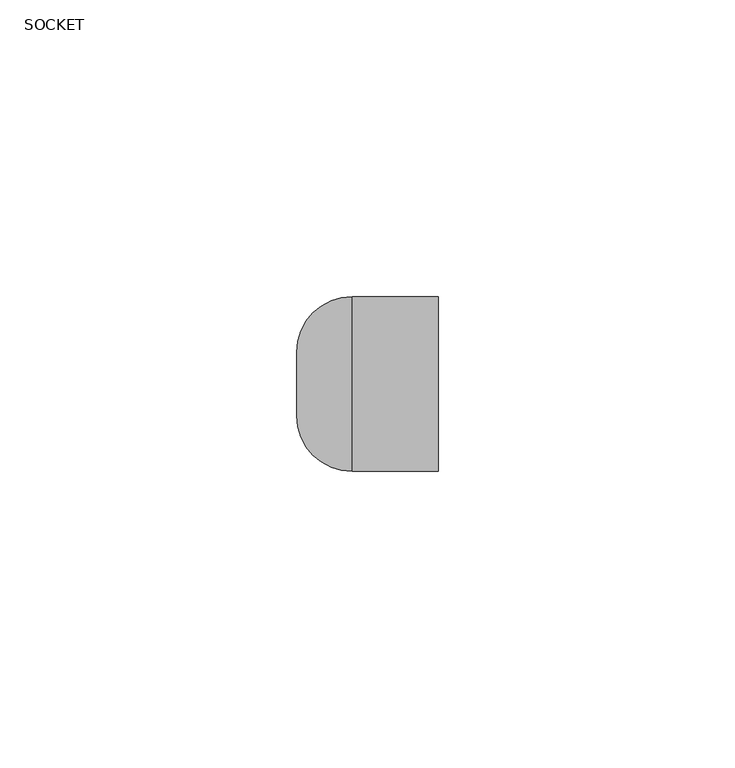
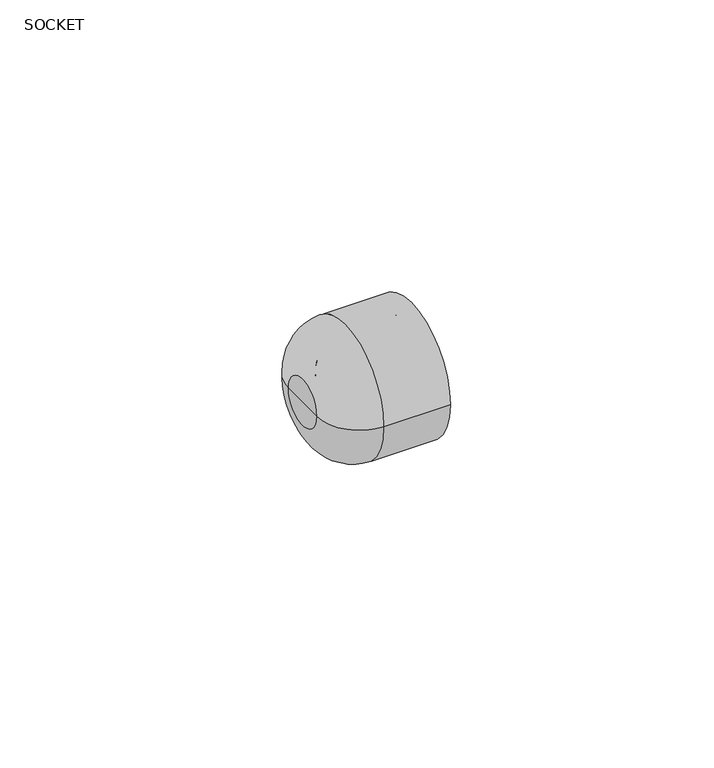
"""IFC4 building model written with IfcOpenShell, lengths in millimetres: pipe fitting geometry, Aquatherm - End Cap Socket : SOCKET."""

from ifc_helpers import new_model, si_unit, point, frame, origin, place, context, project, spatial, polyline, circle_curve, ellipse_curve, trimmed, source, transform, mapped, element, save
from ifc_brep_helpers import plane_surface, cylinder_surface, revolved_surface, advanced_brep


def socket_ae5d6d9c(model_context):
    return source(origin(), model_context, "Body", "AdvancedBrep", [
        advanced_brep(
        [(-23.876, 0.0, 0.0), (-23.876, 5.334, 0.0), (-23.876, -5.334, 0.0), (-15.9840168, -10.033, 0.0), (-15.9840168, 10.033, 0.0), (-15.9840168, 7.7798168, 0.0), (-15.9840168, -7.7798168, 0.0), (0.0, -10.033, 0.0), (0.0, 10.033, 0.0), (0.0, -14.732, 0.0), (0.0, 14.732, 0.0), (-14.478, -14.732, 0.0), (-14.478, 14.732, 0.0), (-16.9238168, -6.8400168, 0.0), (-16.9238168, 6.8400168, 0.0), (-16.9238168, 0.0, 0.0)],
        [
            (0, 1),
            (1, 2, circle_curve(frame((-23.876, 0.0, 0.0), z_axis=(-1.0, 0.0, 0.0), x_axis=(0.0, 1.0, 0.0)), 5.334)),
            (2, 0),
            (2, 1, circle_curve(frame((-23.876, 0.0, 0.0), z_axis=(-1.0, 0.0, 0.0), x_axis=(0.0, 1.0, 0.0)), 5.334)),
            (3, 4, circle_curve(frame((-15.9840168, 0.0, 0.0), z_axis=(1.0, 0.0, 0.0), x_axis=(0.0, 1.0, 0.0)), 10.033)),
            (4, 5),
            (5, 6, circle_curve(frame((-15.9840168, 0.0, 0.0), z_axis=(-1.0, 0.0, 0.0), x_axis=(0.0, 1.0, 0.0)), 7.7798168)),
            (6, 3),
            (4, 3, circle_curve(frame((-15.9840168, 0.0, 0.0), z_axis=(1.0, 0.0, 0.0), x_axis=(0.0, 1.0, 0.0)), 10.033)),
            (6, 5, circle_curve(frame((-15.9840168, 0.0, 0.0), z_axis=(-1.0, 0.0, 0.0), x_axis=(0.0, 1.0, 0.0)), 7.7798168)),
            (7, 8, circle_curve(frame((0.0, 0.0, 0.0), z_axis=(1.0, 0.0, 0.0), x_axis=(0.0, 1.0, 0.0)), 10.033)),
            (8, 4),
            (3, 7),
            (8, 7, circle_curve(frame((0.0, 0.0, 0.0), z_axis=(1.0, 0.0, 0.0), x_axis=(0.0, 1.0, 0.0)), 10.033)),
            (9, 10, circle_curve(frame((0.0, 0.0, 0.0), z_axis=(1.0, 0.0, 0.0), x_axis=(0.0, 1.0, 0.0)), 14.732)),
            (10, 8),
            (7, 9),
            (10, 9, circle_curve(frame((0.0, 0.0, 0.0), z_axis=(1.0, 0.0, 0.0), x_axis=(0.0, 1.0, 0.0)), 14.732)),
            (11, 12, circle_curve(frame((-14.478, 0.0, 0.0), z_axis=(1.0, 0.0, 0.0), x_axis=(0.0, 1.0, 0.0)), 14.732)),
            (12, 10),
            (9, 11),
            (12, 11, circle_curve(frame((-14.478, 0.0, 0.0), z_axis=(1.0, 0.0, 0.0), x_axis=(0.0, 1.0, 0.0)), 14.732)),
            (1, 12, circle_curve(frame((-14.478, 5.334, 0.0), z_axis=(0.0, 0.0, -1.0), x_axis=(1.0, 0.0, 0.0)), 9.398)),
            (11, 2, circle_curve(frame((-14.478, -5.334, 0.0), z_axis=(0.0, 0.0, -1.0), x_axis=(1.0, 0.0, 0.0)), 9.398)),
            (13, 14, circle_curve(frame((-16.9238168, 0.0, 0.0), z_axis=(1.0, 0.0, 0.0), x_axis=(0.0, 1.0, 0.0)), 6.8400168)),
            (14, 15),
            (15, 13),
            (14, 13, circle_curve(frame((-16.9238168, 0.0, 0.0), z_axis=(1.0, 0.0, 0.0), x_axis=(0.0, 1.0, 0.0)), 6.8400168)),
            (5, 14, circle_curve(frame((-15.9840168, 6.8400168, 0.0), z_axis=(0.0, 0.0, 1.0), x_axis=(1.0, 0.0, 0.0)), 0.9398)),
            (13, 6, circle_curve(frame((-15.9840168, -6.8400168, 0.0), z_axis=(0.0, 0.0, 1.0), x_axis=(1.0, 0.0, 0.0)), 0.9398)),
        ],
        [
            plane_surface(frame((-23.876, 0.0, 0.0), z_axis=(-1.0, 0.0, 0.0), x_axis=(0.0, 1.0, 0.0))),
            plane_surface(frame((-15.9840168, 0.0, 0.0), z_axis=(1.0, 0.0, 0.0), x_axis=(0.0, 1.0, 0.0))),
            revolved_surface(polyline([(-15.9840168, 10.033, 0.0), (0.0, 10.033, 0.0)]), (-16.9238168, 0.0, 0.0), (-1.0, 0.0, 0.0)),
            plane_surface(frame((0.0, 0.0, 0.0), z_axis=(1.0, 0.0, 0.0), x_axis=(0.0, 1.0, 0.0))),
            cylinder_surface(frame((-16.9238168, 0.0, 0.0), z_axis=(-1.0, 0.0, 0.0), x_axis=(0.0, 1.0, 0.0)), 14.732),
            revolved_surface(trimmed(ellipse_curve(frame((-14.478, 5.334, 0.0), z_axis=(0.0, 0.0, 1.0), x_axis=(1.0, 0.0, 0.0)), 9.398, 9.398), [point((-14.478, 14.732, 0.0))], [point((-23.876, 5.334, 0.0))], True, "CARTESIAN"), (-16.9238168, 0.0, 0.0), (-1.0, 0.0, 0.0)),
            plane_surface(frame((-16.9238168, 0.0, 0.0), z_axis=(1.0, 0.0, 0.0), x_axis=(0.0, 1.0, 0.0))),
            revolved_surface(trimmed(ellipse_curve(frame((-15.9840168, 6.8400168, 0.0), z_axis=(0.0, 0.0, -1.0), x_axis=(1.0, 0.0, 0.0)), 0.9398, 0.9398), [point((-16.9238168, 6.8400168, 0.0))], [point((-15.9840168, 7.7798168, 0.0))], True, "CARTESIAN"), (-16.9238168, 0.0, 0.0), (-1.0, 0.0, 0.0)),
        ],
        [
            (0, [[1, 2, 3]]),
            (0, [[-3, 4, -1]]),
            (1, [[5, 6, 7, 8]]),
            (1, [[9, -8, 10, -6]]),
            (2, [[11, 12, -5, 13]]),
            (2, [[14, -13, -9, -12]]),
            (3, [[15, 16, -11, 17]]),
            (3, [[18, -17, -14, -16]]),
            (4, [[19, 20, -15, 21]]),
            (4, [[22, -21, -18, -20]]),
            (5, [[-2, 23, -19, 24]]),
            (5, [[-4, -24, -22, -23]]),
            (6, [[25, 26, 27]]),
            (6, [[28, -27, -26]]),
            (7, [[-7, 29, -25, 30]]),
            (7, [[-10, -30, -28, -29]]),
        ],
    ),
    ])


if __name__ == "__main__":
    model = new_model("IFC4")
    model_context = context("Model", 3, world=origin())
    ifc_project = project(units=[si_unit("LENGTHUNIT", "METRE", prefix="MILLI")], contexts=[model_context])
    site = spatial("IfcSite", under=ifc_project)
    building = spatial("IfcBuilding", under=site)
    placement = place(None, origin())
    ifc_socket_shape = socket_ae5d6d9c(model_context)
    element("IfcPipeFitting", 1, ObjectType="Aquatherm - End Cap Socket : SOCKET", at=placement, inside=building, context=model_context, shape_type="MappedRepresentation", body=[
        mapped(ifc_socket_shape, transform((0.0, 0.0, 0.0), x_axis=(1.0, 0.0, 0.0), y_axis=(0.0, 1.0, 0.0), z_axis=(0.0, 0.0, 1.0))),
    ])
    save(model, "model.ifc")
